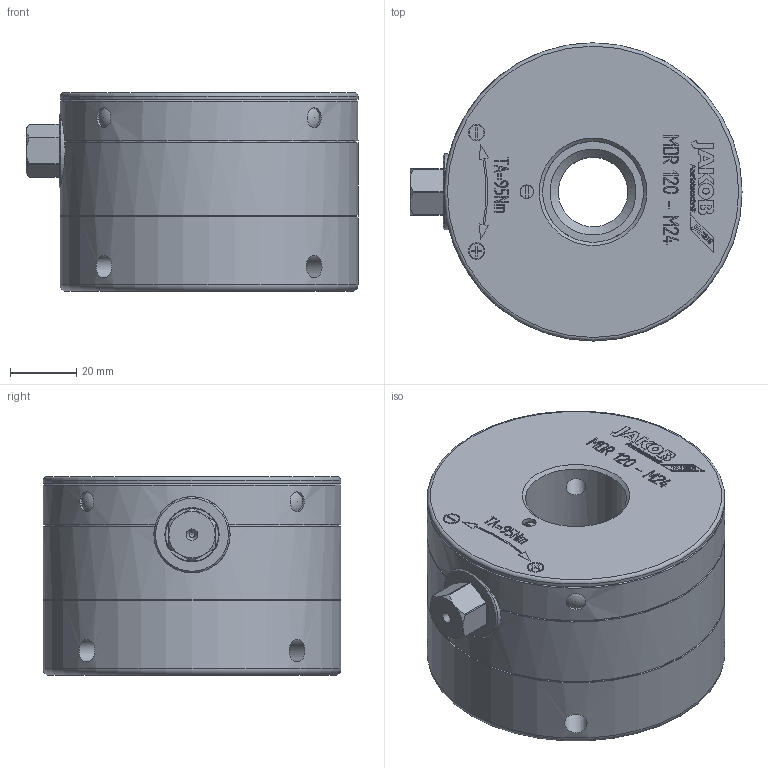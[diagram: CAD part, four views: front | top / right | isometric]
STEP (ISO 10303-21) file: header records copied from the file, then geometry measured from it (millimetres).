
FILE_DESCRIPTION( ( 'Unknown' ), '1' );
FILE_NAME( 'F:/PR/14_Step-Dateien/MDR - MDR-F/MDR 120 - M24 - SW 14.stp', 'Unknown', ( 'Unknown' ), ( 'Unknown' ), 'PSStep 10.1', 'Unknown', ' ' );
FILE_SCHEMA( ( 'AUTOMOTIVE_DESIGN { 1 0 10303 214 1 1 1 1 }' ) );
Length unit declared in the file: millimetre
Products named in the file (1): Text-MDR 100 - M24
Bounding box: 100.3 x 90 x 60.1 mm (x, y, z)
Volume: 347164.9 mm3; surface area: 37281.1 mm2
Topology: 1 solids, 9 shells, 616 faces, 1548 edges, 1029 vertices
Faces by surface type: plane 436, cylinder 67, extrusion 57, cone 36, sphere 16, torus 4
Full cylindrical faces by diameter (mm): 1.6 x2, 4.134 x1, 4.5 x2, 5 x2, 6 x8, 6.8 x8, 12 x1, 16 x1, 21 x1, 30.5 x1, 32.5 x1, 42 x1, 89 x1, 90 x4
Entity records: 26006 total; most frequent: CARTESIAN_POINT 7129, ORIENTED_EDGE 2808, DIRECTION 2591, EDGE_CURVE 1404, VECTOR 1125, LINE 1068, VERTEX_POINT 973, EDGE_LOOP 788
